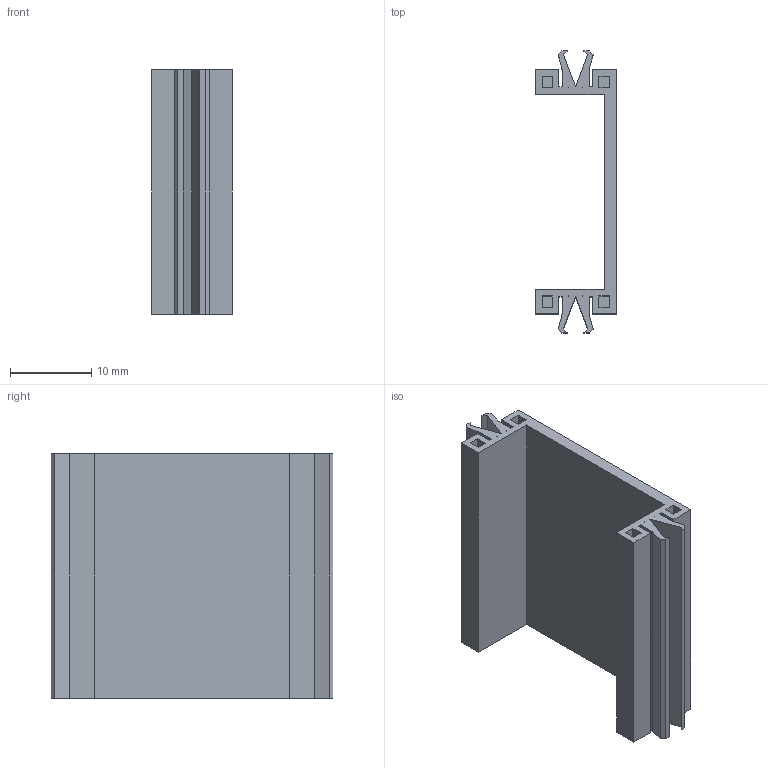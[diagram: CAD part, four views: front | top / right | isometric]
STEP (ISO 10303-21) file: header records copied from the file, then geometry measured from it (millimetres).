
FILE_DESCRIPTION(/* description */ (''),/* implementation_level */ '2;1');
FILE_NAME(/* name */ 'C:/Users/priba/Downloads/Plate1x3x3.step',/* time_stamp */ '2020-11-13T09:24:34+01:00',/* author */ (''),/* organization */ (''),/* preprocessor_version */ 'ST-DEVELOPER v18.1',/* originating_system */ 'Autodesk Translation Framework v9.3.0.1241',/* authorisation */ '');
FILE_SCHEMA (('AUTOMOTIVE_DESIGN { 1 0 10303 214 3 1 1 }'));
Length unit declared in the file: millimetre
Products named in the file (1): Plate1x3x3
Bounding box: 9.9 x 34.61 x 30 mm (x, y, z)
Volume: 2660.5 mm3; surface area: 5006.3 mm2
Topology: 1 solids, 17 shells, 170 faces, 384 edges, 256 vertices
Faces by surface type: plane 170
Entity records: 4638 total; most frequent: CARTESIAN_POINT 811, ORIENTED_EDGE 768, DIRECTION 726, LINE 384, VECTOR 384, EDGE_CURVE 384, VERTEX_POINT 256, EDGE_LOOP 178
